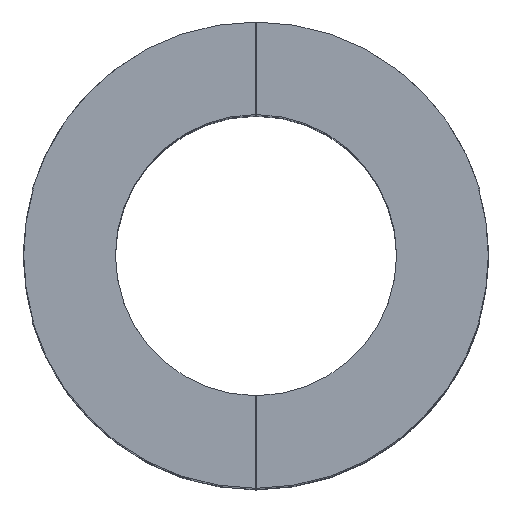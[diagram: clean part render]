
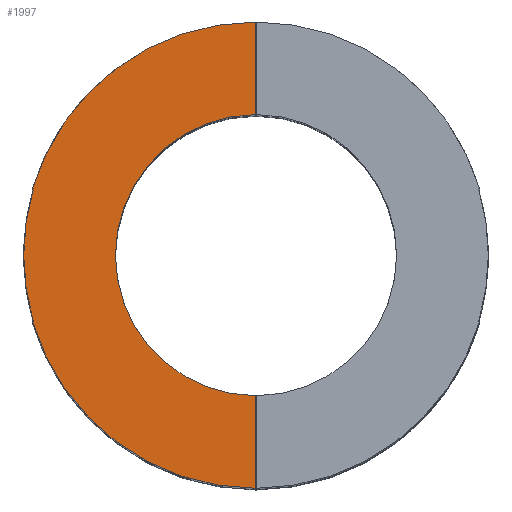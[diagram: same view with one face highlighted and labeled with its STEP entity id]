
A CAD part, top view. The second image highlights one B-rep face of the part: STEP entity #1997.
In plain terms, the highlighted planar face has unit normal (0, 0, 1).
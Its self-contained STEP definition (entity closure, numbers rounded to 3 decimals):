
#39=CIRCLE($,#2150,70.5);
#40=CIRCLE($,#2154,42.5);
#41=CIRCLE($,#2155,70.5);
#42=CIRCLE($,#2156,70.25);
#128=FACE_OUTER_BOUND($,#243,.T.);
#243=EDGE_LOOP($,(#1314,#1315,#1316,#1317,#1318,#1319,#1320,#1321));
#465=LINE($,#3063,#613);
#471=LINE($,#3079,#619);
#475=LINE($,#3111,#623);
#476=LINE($,#3114,#624);
#613=VECTOR($,#2432,28.);
#619=VECTOR($,#2444,28.);
#623=VECTOR($,#2466,0.261);
#624=VECTOR($,#2469,0.261);
#764=VERTEX_POINT($,#3059);
#766=VERTEX_POINT($,#3062);
#770=VERTEX_POINT($,#3071);
#773=VERTEX_POINT($,#3077);
#776=VERTEX_POINT($,#3092);
#779=VERTEX_POINT($,#3108);
#780=VERTEX_POINT($,#3110);
#781=VERTEX_POINT($,#3112);
#969=EDGE_CURVE($,#766,#764,#465,.T.);
#977=EDGE_CURVE($,#770,#773,#471,.T.);
#981=EDGE_CURVE($,#770,#776,#39,.T.);
#986=EDGE_CURVE($,#773,#766,#40,.T.);
#987=EDGE_CURVE($,#779,#764,#41,.T.);
#988=EDGE_CURVE($,#779,#780,#475,.T.);
#989=EDGE_CURVE($,#780,#781,#42,.T.);
#990=EDGE_CURVE($,#781,#776,#476,.T.);
#1314=ORIENTED_EDGE($,*,*,#977,.T.);
#1315=ORIENTED_EDGE($,*,*,#986,.T.);
#1316=ORIENTED_EDGE($,*,*,#969,.T.);
#1317=ORIENTED_EDGE($,*,*,#987,.F.);
#1318=ORIENTED_EDGE($,*,*,#988,.T.);
#1319=ORIENTED_EDGE($,*,*,#989,.T.);
#1320=ORIENTED_EDGE($,*,*,#990,.T.);
#1321=ORIENTED_EDGE($,*,*,#981,.F.);
#1806=PLANE($,#2153);
#1997=ADVANCED_FACE($,(#128),#1806,.F.);
#2150=AXIS2_PLACEMENT_3D($,#3093,#2452,#2453);
#2153=AXIS2_PLACEMENT_3D($,#3106,#2460,#2461);
#2154=AXIS2_PLACEMENT_3D($,#3107,#2462,#2463);
#2155=AXIS2_PLACEMENT_3D($,#3109,#2464,#2465);
#2156=AXIS2_PLACEMENT_3D($,#3113,#2467,#2468);
#2432=DIRECTION($,(0.,1.,0.));
#2444=DIRECTION($,(0.,1.,0.));
#2452=DIRECTION('center_axis',(0.,0.,-1.));
#2453=DIRECTION('ref_axis',(-1.,0.,0.));
#2460=DIRECTION('center_axis',(0.,0.,-1.));
#2461=DIRECTION('ref_axis',(-1.,0.,0.));
#2462=DIRECTION('center_axis',(0.,0.,-1.));
#2463=DIRECTION('ref_axis',(-1.,0.,0.));
#2464=DIRECTION('center_axis',(0.,0.,-1.));
#2465=DIRECTION('ref_axis',(-1.,0.,0.));
#2466=DIRECTION($,(1.,0.,0.));
#2467=DIRECTION('center_axis',(0.,0.,1.));
#2468=DIRECTION('ref_axis',(0.959,-0.285,0.));
#2469=DIRECTION($,(-1.,0.,0.));
#3059=CARTESIAN_POINT('',(-0.25,70.5,150.));
#3062=CARTESIAN_POINT('',(-0.25,42.499,150.));
#3063=CARTESIAN_POINT($,(-0.25,0.,150.));
#3071=CARTESIAN_POINT('',(-0.25,-70.5,150.));
#3077=CARTESIAN_POINT('',(-0.25,-42.499,150.));
#3079=CARTESIAN_POINT($,(-0.25,0.,150.));
#3092=CARTESIAN_POINT('',(-67.604,-20.,150.));
#3093=CARTESIAN_POINT('Origin',(0.,0.,150.));
#3106=CARTESIAN_POINT('Origin',(0.,0.,150.));
#3107=CARTESIAN_POINT('Origin',(0.,0.,150.));
#3108=CARTESIAN_POINT('',(-67.604,20.,150.));
#3109=CARTESIAN_POINT('Origin',(0.,0.,150.));
#3110=CARTESIAN_POINT('',(-67.343,20.,150.));
#3111=CARTESIAN_POINT($,(-34.323,20.,150.));
#3112=CARTESIAN_POINT('',(-67.343,-20.,150.));
#3113=CARTESIAN_POINT('Origin',(0.,0.,150.));
#3114=CARTESIAN_POINT($,(-33.671,-20.,150.));
